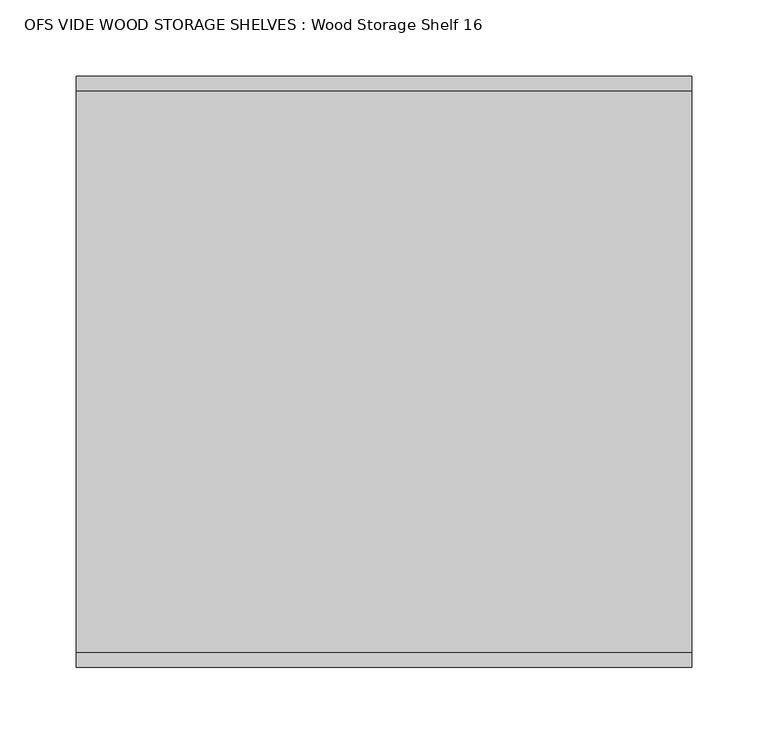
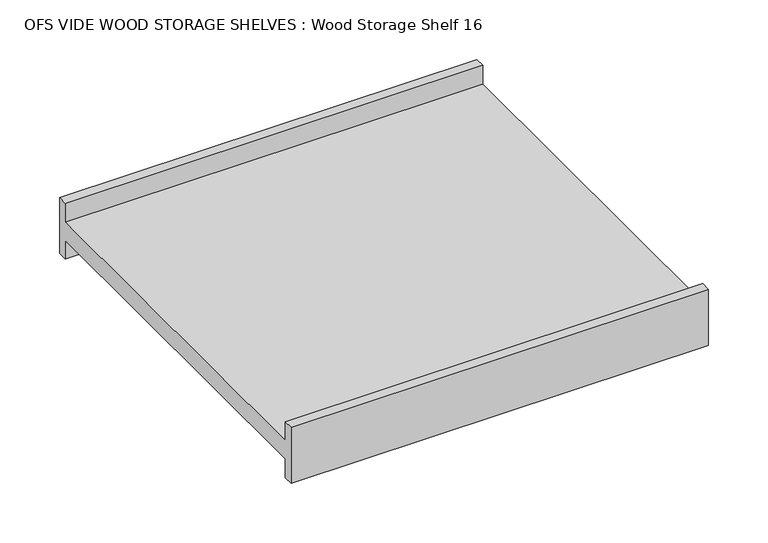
"""IFC4 building model written with IfcOpenShell, lengths in millimetres: furniture geometry, OFS VIDE WOOD STORAGE SHELVES : Wood Storage Shelf 16."""

import ifcopenshell
import ifcopenshell.guid

model = None  # the IFC model being written
_history = None  # IfcOwnerHistory: only IFC2X3 demands one
_inside = {}  # id of a spatial element -> (the spatial element, [elements in it])
_under = {}  # id of a project, library or spatial element -> (it, [spatial elements below it])
_declared = {}  # id of a project -> (the project, [libraries it declares])
_typed = {}  # id of a type object -> (the type object, [elements of that type])
_made_of = {}  # id of a material, layer set ... -> (it, [elements and type objects made of it])


def new_model(schema):
    """Start an empty IFC model of exactly this schema.

    Asked for "IFC4X3", IfcOpenShell would pick the latest addendum, in which some entities
    have other attributes; the version numbers below select the first issue.
    IFC2X3 requires an IfcOwnerHistory on every rooted entity: one is made here for all.
    """
    global model, _history
    if schema == "IFC4X3":
        model = ifcopenshell.file(schema_version=(4, 3, 0, 0))
    else:
        model = ifcopenshell.file(schema=schema)
    _inside.clear()
    _under.clear()
    _declared.clear()
    _typed.clear()
    _made_of.clear()
    _history = None
    if model.schema == "IFC2X3":
        org = make("IfcOrganization", Name="unknown")
        user = make(
            "IfcPersonAndOrganization",
            ThePerson=make("IfcPerson", FamilyName="unknown"),
            TheOrganization=org,
        )
        app = make(
            "IfcApplication",
            ApplicationDeveloper=org,
            Version="unknown",
            ApplicationFullName="unknown",
            ApplicationIdentifier="unknown",
        )
        _history = make(
            "IfcOwnerHistory",
            OwningUser=user,
            OwningApplication=app,
            ChangeAction="ADDED",
            CreationDate=0,
        )
    return model


def make(cls, **values):
    """One entity of the class cls with the attributes given. An attribute that is None is left unset."""
    return model.create_entity(
        cls, **{name: value for name, value in values.items() if value is not None}
    )


def rooted(cls, **values):
    """An entity with a GlobalId (a new one), such as an element, a storey or a relation."""
    return make(cls, GlobalId=ifcopenshell.guid.new(), OwnerHistory=_history, **values)


def si_unit(unit_type, name, prefix=None):
    """IfcSIUnit, for example si_unit("LENGTHUNIT", "METRE", prefix="MILLI")."""
    return make("IfcSIUnit", UnitType=unit_type, Prefix=prefix, Name=name)


def assignment(units):
    """IfcUnitAssignment: the units of a project."""
    return None if units is None else make("IfcUnitAssignment", Units=units)


def point(xyz):
    """IfcCartesianPoint."""
    return None if xyz is None else make("IfcCartesianPoint", Coordinates=xyz)


def direction(xyz):
    """IfcDirection."""
    return None if xyz is None else make("IfcDirection", DirectionRatios=xyz)


def frame(location, z_axis=None, x_axis=None):
    """IfcAxis2Placement3D, a coordinate frame: its origin and axes. An axis left out is left unset."""
    return make(
        "IfcAxis2Placement3D",
        Location=point(location),
        Axis=direction(z_axis),
        RefDirection=direction(x_axis),
    )


def origin():
    """The frame at (0, 0, 0) with its axes left unset."""
    return frame((0.0, 0.0, 0.0))


def place(relative_to, where):
    """IfcLocalPlacement: puts the frame where relative to a parent placement (None: the world)."""
    return make(
        "IfcLocalPlacement", PlacementRelTo=relative_to, RelativePlacement=where
    )


def context(
    kind, dimensions, precision=None, world=None, true_north=None, identifier=None
):
    """IfcGeometricRepresentationContext, for example the 3D "Model" context."""
    return make(
        "IfcGeometricRepresentationContext",
        ContextIdentifier=identifier,
        ContextType=kind,
        CoordinateSpaceDimension=dimensions,
        Precision=precision,
        WorldCoordinateSystem=world,
        TrueNorth=true_north,
    )


def project(units=None, contexts=None):
    """IfcProject with its units and contexts."""
    return rooted(
        "IfcProject",
        Name="project",
        RepresentationContexts=contexts,
        UnitsInContext=assignment(units),
    )


def spatial(cls, under=None, at=None, **own):
    """A site, building, storey or space (cls), placed at a placement, below another one or the project."""
    s = rooted(cls, ObjectPlacement=at, **own)
    if under is not None:
        _under.setdefault(under.id(), (under, []))[1].append(s)
    return s


def polyline(points):
    """IfcPolyline through the points."""
    return make("IfcPolyline", Points=[point(p) for p in points])


def outline(outer, holes=None, kind="AREA"):
    """IfcArbitraryClosedProfileDef: a profile drawn as a closed curve; with holes, ...WithVoids."""
    if holes is None:
        return make("IfcArbitraryClosedProfileDef", ProfileType=kind, OuterCurve=outer)
    return make(
        "IfcArbitraryProfileDefWithVoids",
        ProfileType=kind,
        OuterCurve=outer,
        InnerCurves=holes,
    )


def extrude(swept, where, along, depth):
    """IfcExtrudedAreaSolid: the profile swept, set in the frame where, extruded along a direction by depth."""
    return make(
        "IfcExtrudedAreaSolid",
        SweptArea=swept,
        Position=where,
        ExtrudedDirection=direction(along),
        Depth=depth,
    )


def shape(context_of_items, identifier, shape_type, items):
    """IfcShapeRepresentation: the items that make up one representation, for example the "Body"."""
    return make(
        "IfcShapeRepresentation",
        ContextOfItems=context_of_items,
        RepresentationIdentifier=identifier,
        RepresentationType=shape_type,
        Items=items,
    )


def source(mapping_origin, context_of_items, identifier, shape_type, items):
    """IfcRepresentationMap: a shape defined once, which mapped items show again and again."""
    return make(
        "IfcRepresentationMap",
        MappingOrigin=mapping_origin,
        MappedRepresentation=shape(context_of_items, identifier, shape_type, items),
    )


def transform(
    local_origin,
    x_axis=None,
    y_axis=None,
    z_axis=None,
    scale=None,
    scale2=None,
    scale3=None,
    uniform=True,
):
    """IfcCartesianTransformationOperator3D, or its non-uniform kind. x_axis, y_axis, z_axis: its Axis1, 2, 3."""
    if uniform:
        return make(
            "IfcCartesianTransformationOperator3D",
            Axis1=direction(x_axis),
            Axis2=direction(y_axis),
            LocalOrigin=point(local_origin),
            Scale=scale,
            Axis3=direction(z_axis),
        )
    return make(
        "IfcCartesianTransformationOperator3DnonUniform",
        Axis1=direction(x_axis),
        Axis2=direction(y_axis),
        LocalOrigin=point(local_origin),
        Scale=scale,
        Axis3=direction(z_axis),
        Scale2=scale2,
        Scale3=scale3,
    )


def mapped(mapping_source, mapping_target):
    """IfcMappedItem: shows the shape of a source again, moved by a transform."""
    return make(
        "IfcMappedItem", MappingSource=mapping_source, MappingTarget=mapping_target
    )


def made_of(thing, what):
    """Note that an element or type object is made of a material, layer set ...; save() writes the relation."""
    if what is not None:
        _made_of.setdefault(what.id(), (what, []))[1].append(thing)
    return thing


def element(
    cls,
    number,
    at=None,
    inside=None,
    cuts=None,
    type_object=None,
    material=None,
    context=None,
    identifier="Body",
    shape_type=None,
    held_by="IfcProductDefinitionShape",
    body=None,
    shapes=None,
    **own,
):
    """One element of the class cls, such as IfcWall. Its Tag is "e" and its number.

    at: its placement. inside: the storey or other place that contains it. cuts: it is an
    opening in that element (IfcRelVoidsElement). A single representation is given by context,
    identifier, shape_type and body (its items); several are given by shapes. held_by: the class
    of the entity that holds the representations. save() writes the other relations.
    """
    e = rooted(cls, Tag="e%d" % number, ObjectPlacement=at, **own)
    if body is not None:
        shapes = [shape(context, identifier, shape_type, body)]
    if shapes is not None:
        e.Representation = make(held_by, Representations=shapes)
    if inside is not None:
        _inside.setdefault(inside.id(), (inside, []))[1].append(e)
    if cuts is not None:
        rooted(
            "IfcRelVoidsElement", RelatingBuildingElement=cuts, RelatedOpeningElement=e
        )
    if type_object is not None:
        _typed.setdefault(type_object.id(), (type_object, []))[1].append(e)
    return made_of(e, material)


def aggregate(whole, parts):
    """IfcRelAggregates: a whole, such as a stair, and the parts it consists of."""
    return rooted("IfcRelAggregates", RelatingObject=whole, RelatedObjects=parts)


def save(model, path):
    """Write the relations noted so far, then the file.

    IfcRelAggregates (storeys below a building ...), IfcRelContainedInSpatialStructure (elements
    in a storey), IfcRelDefinesByType, IfcRelAssociatesMaterial and IfcRelDeclares: one each for
    every whole, place, type object, material and project.
    """
    for whole, parts in _under.values():
        aggregate(whole, parts)
    for where, things in _inside.values():
        rooted(
            "IfcRelContainedInSpatialStructure",
            RelatedElements=things,
            RelatingStructure=where,
        )
    for kind, things in _typed.values():
        rooted("IfcRelDefinesByType", RelatedObjects=things, RelatingType=kind)
    for what, things in _made_of.values():
        rooted("IfcRelAssociatesMaterial", RelatedObjects=things, RelatingMaterial=what)
    for by, libraries in _declared.values():
        rooted("IfcRelDeclares", RelatingContext=by, RelatedDefinitions=libraries)
    model.write(path)


def ofs_vide_wood_storage_shelves_wood_storage_shelf_16_a3ba5fe4(model_context):
    return source(origin(), model_context, "Body", "SweptSolid", [
        extrude(outline(polyline([(184.15, 130.175), (193.675, 130.175), (193.675, 73.025), (184.15, 73.025), (184.15, 92.075), (-184.15, 92.075), (-184.15, 73.025), (-193.675, 73.025), (-193.675, 130.175), (-184.15, 130.175), (-184.15, 111.125), (184.15, 111.125), (184.15, 130.175)])), frame((-201.6125, 0.0, 0.0), z_axis=(1.0, 0.0, 0.0), x_axis=(0.0, 1.0, 0.0)), (0.0, 0.0, 1.0), 403.225),
    ])


if __name__ == "__main__":
    model = new_model("IFC4")
    model_context = context("Model", 3, world=origin())
    ifc_project = project(units=[si_unit("LENGTHUNIT", "METRE", prefix="MILLI")], contexts=[model_context])
    site = spatial("IfcSite", under=ifc_project)
    building = spatial("IfcBuilding", under=site)
    placement = place(None, origin())
    ofs_vide_wood_storage_shelves_wood_storage_shelf_16_shape = ofs_vide_wood_storage_shelves_wood_storage_shelf_16_a3ba5fe4(model_context)
    element("IfcFurniture", 1, ObjectType="OFS VIDE WOOD STORAGE SHELVES : Wood Storage Shelf 16", at=placement, inside=building, context=model_context, shape_type="MappedRepresentation", body=[
        mapped(ofs_vide_wood_storage_shelves_wood_storage_shelf_16_shape, transform((0.0, 0.0, 0.0), x_axis=(1.0, 0.0, 0.0), y_axis=(0.0, 1.0, 0.0), z_axis=(0.0, 0.0, 1.0))),
    ])
    save(model, "model.ifc")
